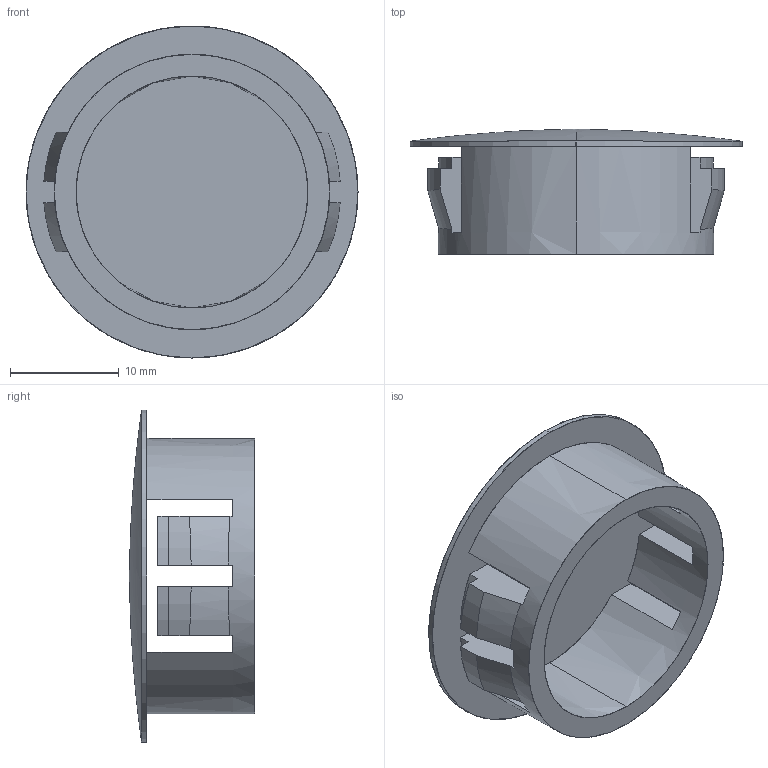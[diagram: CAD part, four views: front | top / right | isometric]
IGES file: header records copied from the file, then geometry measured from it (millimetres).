
Start section: SolidWorks IGES FILE using analytic representation for surfaces
Global section: file name: \\Ls-wvld1d\share\シブタニ\3D設計\ゴム\EBHP-12\EBHP-12.IGS; native system: SolidWorks 2003 by SolidWorks Corporation; preprocessor: Version 5.3; author: user; date: 130803.140206; units: millimetre
Bounding box: 30.5 x 11.5 x 30.5 mm (x, y, z)
Surface area: 3117.8 mm2 (no closed solid volume)
Topology: 0 solids, 0 shells, 48 faces, 492 edges, 490 vertices
Faces by surface type: bspline 30, revolution 18
